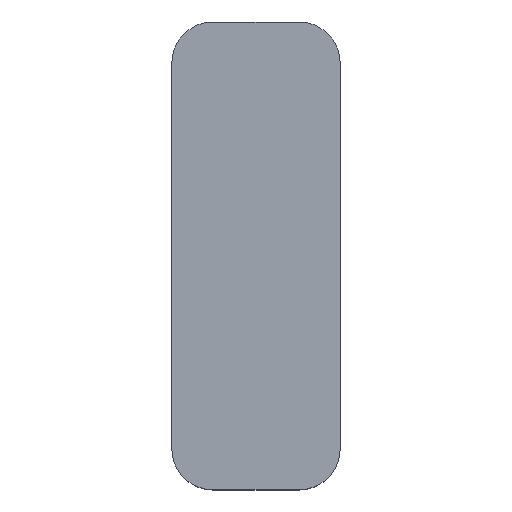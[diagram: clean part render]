
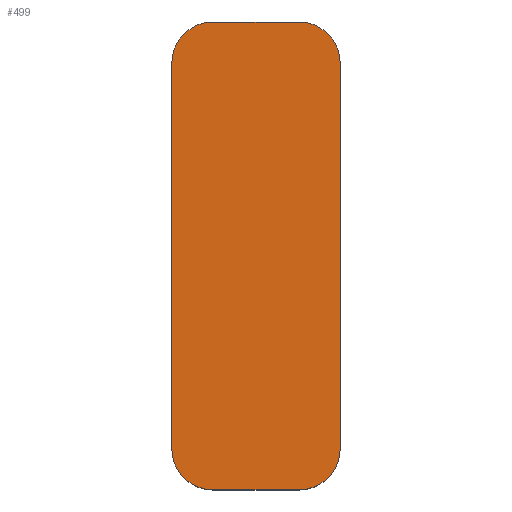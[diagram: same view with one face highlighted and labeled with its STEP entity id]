
A CAD part, top view. The second image highlights one B-rep face of the part: STEP entity #499.
In plain terms, the highlighted planar face has unit normal (0, 0, 1).
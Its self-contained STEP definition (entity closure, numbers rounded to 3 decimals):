
#32 = PLANE('',#33);
#33 = AXIS2_PLACEMENT_3D('',#34,#35,#36);
#34 = CARTESIAN_POINT('',(-23.5,-7.5,24.));
#35 = DIRECTION('',(0.,1.,0.));
#36 = DIRECTION('',(1.,0.,0.));
#57 = VERTEX_POINT('',#58);
#58 = CARTESIAN_POINT('',(-21.3,-7.5,28.2));
#72 = CYLINDRICAL_SURFACE('',#73,2.2);
#73 = AXIS2_PLACEMENT_3D('',#74,#75,#76);
#74 = CARTESIAN_POINT('',(-21.3,-5.3,24.));
#75 = DIRECTION('',(0.,0.,1.));
#76 = DIRECTION('',(0.,-1.,0.));
#84 = EDGE_CURVE('',#57,#85,#87,.T.);
#85 = VERTEX_POINT('',#86);
#86 = CARTESIAN_POINT('',(-16.7,-7.5,28.2));
#87 = SURFACE_CURVE('',#88,(#92,#99),.PCURVE_S1.);
#88 = LINE('',#89,#90);
#89 = CARTESIAN_POINT('',(-23.5,-7.5,28.2));
#90 = VECTOR('',#91,1.);
#91 = DIRECTION('',(1.,0.,0.));
#92 = PCURVE('',#32,#93);
#93 = DEFINITIONAL_REPRESENTATION('',(#94),#98);
#94 = LINE('',#95,#96);
#95 = CARTESIAN_POINT('',(0.,-4.2));
#96 = VECTOR('',#97,1.);
#97 = DIRECTION('',(1.,0.));
#98 = ( GEOMETRIC_REPRESENTATION_CONTEXT(2) 
PARAMETRIC_REPRESENTATION_CONTEXT() REPRESENTATION_CONTEXT('2D SPACE',''
  ) );
#99 = PCURVE('',#100,#105);
#100 = PLANE('',#101);
#101 = AXIS2_PLACEMENT_3D('',#102,#103,#104);
#102 = CARTESIAN_POINT('',(-19.,5.,28.2));
#103 = DIRECTION('',(0.,0.,1.));
#104 = DIRECTION('',(1.,0.,-0.));
#105 = DEFINITIONAL_REPRESENTATION('',(#106),#110);
#106 = LINE('',#107,#108);
#107 = CARTESIAN_POINT('',(-4.5,-12.5));
#108 = VECTOR('',#109,1.);
#109 = DIRECTION('',(1.,0.));
#110 = ( GEOMETRIC_REPRESENTATION_CONTEXT(2) 
PARAMETRIC_REPRESENTATION_CONTEXT() REPRESENTATION_CONTEXT('2D SPACE',''
  ) );
#126 = CYLINDRICAL_SURFACE('',#127,2.2);
#127 = AXIS2_PLACEMENT_3D('',#128,#129,#130);
#128 = CARTESIAN_POINT('',(-16.7,-5.3,24.));
#129 = DIRECTION('',(0.,0.,1.));
#130 = DIRECTION('',(0.,-1.,0.));
#182 = PLANE('',#183);
#183 = AXIS2_PLACEMENT_3D('',#184,#185,#186);
#184 = CARTESIAN_POINT('',(-14.5,-7.5,24.));
#185 = DIRECTION('',(-1.,0.,0.));
#186 = DIRECTION('',(0.,1.,0.));
#211 = CYLINDRICAL_SURFACE('',#212,2.2);
#212 = AXIS2_PLACEMENT_3D('',#213,#214,#215);
#213 = CARTESIAN_POINT('',(-16.7,15.3,24.));
#214 = DIRECTION('',(0.,0.,1.));
#215 = DIRECTION('',(1.,0.,-0.));
#239 = PLANE('',#240);
#240 = AXIS2_PLACEMENT_3D('',#241,#242,#243);
#241 = CARTESIAN_POINT('',(-14.5,17.5,24.));
#242 = DIRECTION('',(0.,-1.,0.));
#243 = DIRECTION('',(-1.,0.,0.));
#268 = CYLINDRICAL_SURFACE('',#269,2.2);
#269 = AXIS2_PLACEMENT_3D('',#270,#271,#272);
#270 = CARTESIAN_POINT('',(-21.3,15.3,24.));
#271 = DIRECTION('',(0.,0.,1.));
#272 = DIRECTION('',(-0.,1.,0.));
#296 = PLANE('',#297);
#297 = AXIS2_PLACEMENT_3D('',#298,#299,#300);
#298 = CARTESIAN_POINT('',(-23.5,17.5,24.));
#299 = DIRECTION('',(1.,0.,-0.));
#300 = DIRECTION('',(0.,-1.,0.));
#401 = VERTEX_POINT('',#402);
#402 = CARTESIAN_POINT('',(-23.5,-5.3,28.2));
#423 = EDGE_CURVE('',#57,#401,#424,.T.);
#424 = SURFACE_CURVE('',#425,(#430,#437),.PCURVE_S1.);
#425 = CIRCLE('',#426,2.2);
#426 = AXIS2_PLACEMENT_3D('',#427,#428,#429);
#427 = CARTESIAN_POINT('',(-21.3,-5.3,28.2));
#428 = DIRECTION('',(-0.,-0.,-1.));
#429 = DIRECTION('',(0.,-1.,0.));
#430 = PCURVE('',#72,#431);
#431 = DEFINITIONAL_REPRESENTATION('',(#432),#436);
#432 = LINE('',#433,#434);
#433 = CARTESIAN_POINT('',(-0.,4.2));
#434 = VECTOR('',#435,1.);
#435 = DIRECTION('',(-1.,0.));
#436 = ( GEOMETRIC_REPRESENTATION_CONTEXT(2) 
PARAMETRIC_REPRESENTATION_CONTEXT() REPRESENTATION_CONTEXT('2D SPACE',''
  ) );
#437 = PCURVE('',#100,#438);
#438 = DEFINITIONAL_REPRESENTATION('',(#439),#447);
#439 = ( BOUNDED_CURVE() B_SPLINE_CURVE(2,(#440,#441,#442,#443,#444,#445
,#446),.UNSPECIFIED.,.T.,.F.) B_SPLINE_CURVE_WITH_KNOTS((1,2,2,2,2,1),(
    -2.094,0.,2.094,4.189,6.283,
8.378),.UNSPECIFIED.) CURVE() GEOMETRIC_REPRESENTATION_ITEM() 
RATIONAL_B_SPLINE_CURVE((1.,0.5,1.,0.5,1.,0.5,1.)) REPRESENTATION_ITEM(
  '') );
#440 = CARTESIAN_POINT('',(-2.3,-12.5));
#441 = CARTESIAN_POINT('',(-6.111,-12.5));
#442 = CARTESIAN_POINT('',(-4.205,-9.2));
#443 = CARTESIAN_POINT('',(-2.3,-5.9));
#444 = CARTESIAN_POINT('',(-0.395,-9.2));
#445 = CARTESIAN_POINT('',(1.511,-12.5));
#446 = CARTESIAN_POINT('',(-2.3,-12.5));
#447 = ( GEOMETRIC_REPRESENTATION_CONTEXT(2) 
PARAMETRIC_REPRESENTATION_CONTEXT() REPRESENTATION_CONTEXT('2D SPACE',''
  ) );
#455 = VERTEX_POINT('',#456);
#456 = CARTESIAN_POINT('',(-14.5,-5.3,28.2));
#477 = EDGE_CURVE('',#85,#455,#478,.T.);
#478 = SURFACE_CURVE('',#479,(#484,#491),.PCURVE_S1.);
#479 = CIRCLE('',#480,2.2);
#480 = AXIS2_PLACEMENT_3D('',#481,#482,#483);
#481 = CARTESIAN_POINT('',(-16.7,-5.3,28.2));
#482 = DIRECTION('',(0.,0.,1.));
#483 = DIRECTION('',(0.,-1.,0.));
#484 = PCURVE('',#126,#485);
#485 = DEFINITIONAL_REPRESENTATION('',(#486),#490);
#486 = LINE('',#487,#488);
#487 = CARTESIAN_POINT('',(0.,4.2));
#488 = VECTOR('',#489,1.);
#489 = DIRECTION('',(1.,0.));
#490 = ( GEOMETRIC_REPRESENTATION_CONTEXT(2) 
PARAMETRIC_REPRESENTATION_CONTEXT() REPRESENTATION_CONTEXT('2D SPACE',''
  ) );
#491 = PCURVE('',#100,#492);
#492 = DEFINITIONAL_REPRESENTATION('',(#493),#497);
#493 = CIRCLE('',#494,2.2);
#494 = AXIS2_PLACEMENT_2D('',#495,#496);
#495 = CARTESIAN_POINT('',(2.3,-10.3));
#496 = DIRECTION('',(0.,-1.));
#497 = ( GEOMETRIC_REPRESENTATION_CONTEXT(2) 
PARAMETRIC_REPRESENTATION_CONTEXT() REPRESENTATION_CONTEXT('2D SPACE',''
  ) );
#499 = ADVANCED_FACE('',(#500),#100,.T.);
#500 = FACE_BOUND('',#501,.T.);
#501 = EDGE_LOOP('',(#502,#503,#504,#527,#551,#574,#598,#619));
#502 = ORIENTED_EDGE('',*,*,#84,.T.);
#503 = ORIENTED_EDGE('',*,*,#477,.T.);
#504 = ORIENTED_EDGE('',*,*,#505,.T.);
#505 = EDGE_CURVE('',#455,#506,#508,.T.);
#506 = VERTEX_POINT('',#507);
#507 = CARTESIAN_POINT('',(-14.5,15.3,28.2));
#508 = SURFACE_CURVE('',#509,(#513,#520),.PCURVE_S1.);
#509 = LINE('',#510,#511);
#510 = CARTESIAN_POINT('',(-14.5,-7.5,28.2));
#511 = VECTOR('',#512,1.);
#512 = DIRECTION('',(0.,1.,0.));
#513 = PCURVE('',#100,#514);
#514 = DEFINITIONAL_REPRESENTATION('',(#515),#519);
#515 = LINE('',#516,#517);
#516 = CARTESIAN_POINT('',(4.5,-12.5));
#517 = VECTOR('',#518,1.);
#518 = DIRECTION('',(0.,1.));
#519 = ( GEOMETRIC_REPRESENTATION_CONTEXT(2) 
PARAMETRIC_REPRESENTATION_CONTEXT() REPRESENTATION_CONTEXT('2D SPACE',''
  ) );
#520 = PCURVE('',#182,#521);
#521 = DEFINITIONAL_REPRESENTATION('',(#522),#526);
#522 = LINE('',#523,#524);
#523 = CARTESIAN_POINT('',(0.,-4.2));
#524 = VECTOR('',#525,1.);
#525 = DIRECTION('',(1.,0.));
#526 = ( GEOMETRIC_REPRESENTATION_CONTEXT(2) 
PARAMETRIC_REPRESENTATION_CONTEXT() REPRESENTATION_CONTEXT('2D SPACE',''
  ) );
#527 = ORIENTED_EDGE('',*,*,#528,.T.);
#528 = EDGE_CURVE('',#506,#529,#531,.T.);
#529 = VERTEX_POINT('',#530);
#530 = CARTESIAN_POINT('',(-16.7,17.5,28.2));
#531 = SURFACE_CURVE('',#532,(#537,#544),.PCURVE_S1.);
#532 = CIRCLE('',#533,2.2);
#533 = AXIS2_PLACEMENT_3D('',#534,#535,#536);
#534 = CARTESIAN_POINT('',(-16.7,15.3,28.2));
#535 = DIRECTION('',(0.,0.,1.));
#536 = DIRECTION('',(0.,-1.,0.));
#537 = PCURVE('',#100,#538);
#538 = DEFINITIONAL_REPRESENTATION('',(#539),#543);
#539 = CIRCLE('',#540,2.2);
#540 = AXIS2_PLACEMENT_2D('',#541,#542);
#541 = CARTESIAN_POINT('',(2.3,10.3));
#542 = DIRECTION('',(0.,-1.));
#543 = ( GEOMETRIC_REPRESENTATION_CONTEXT(2) 
PARAMETRIC_REPRESENTATION_CONTEXT() REPRESENTATION_CONTEXT('2D SPACE',''
  ) );
#544 = PCURVE('',#211,#545);
#545 = DEFINITIONAL_REPRESENTATION('',(#546),#550);
#546 = LINE('',#547,#548);
#547 = CARTESIAN_POINT('',(-1.571,4.2));
#548 = VECTOR('',#549,1.);
#549 = DIRECTION('',(1.,0.));
#550 = ( GEOMETRIC_REPRESENTATION_CONTEXT(2) 
PARAMETRIC_REPRESENTATION_CONTEXT() REPRESENTATION_CONTEXT('2D SPACE',''
  ) );
#551 = ORIENTED_EDGE('',*,*,#552,.T.);
#552 = EDGE_CURVE('',#529,#553,#555,.T.);
#553 = VERTEX_POINT('',#554);
#554 = CARTESIAN_POINT('',(-21.3,17.5,28.2));
#555 = SURFACE_CURVE('',#556,(#560,#567),.PCURVE_S1.);
#556 = LINE('',#557,#558);
#557 = CARTESIAN_POINT('',(-14.5,17.5,28.2));
#558 = VECTOR('',#559,1.);
#559 = DIRECTION('',(-1.,0.,0.));
#560 = PCURVE('',#100,#561);
#561 = DEFINITIONAL_REPRESENTATION('',(#562),#566);
#562 = LINE('',#563,#564);
#563 = CARTESIAN_POINT('',(4.5,12.5));
#564 = VECTOR('',#565,1.);
#565 = DIRECTION('',(-1.,0.));
#566 = ( GEOMETRIC_REPRESENTATION_CONTEXT(2) 
PARAMETRIC_REPRESENTATION_CONTEXT() REPRESENTATION_CONTEXT('2D SPACE',''
  ) );
#567 = PCURVE('',#239,#568);
#568 = DEFINITIONAL_REPRESENTATION('',(#569),#573);
#569 = LINE('',#570,#571);
#570 = CARTESIAN_POINT('',(0.,-4.2));
#571 = VECTOR('',#572,1.);
#572 = DIRECTION('',(1.,0.));
#573 = ( GEOMETRIC_REPRESENTATION_CONTEXT(2) 
PARAMETRIC_REPRESENTATION_CONTEXT() REPRESENTATION_CONTEXT('2D SPACE',''
  ) );
#574 = ORIENTED_EDGE('',*,*,#575,.T.);
#575 = EDGE_CURVE('',#553,#576,#578,.T.);
#576 = VERTEX_POINT('',#577);
#577 = CARTESIAN_POINT('',(-23.5,15.3,28.2));
#578 = SURFACE_CURVE('',#579,(#584,#591),.PCURVE_S1.);
#579 = CIRCLE('',#580,2.2);
#580 = AXIS2_PLACEMENT_3D('',#581,#582,#583);
#581 = CARTESIAN_POINT('',(-21.3,15.3,28.2));
#582 = DIRECTION('',(0.,0.,1.));
#583 = DIRECTION('',(0.,-1.,0.));
#584 = PCURVE('',#100,#585);
#585 = DEFINITIONAL_REPRESENTATION('',(#586),#590);
#586 = CIRCLE('',#587,2.2);
#587 = AXIS2_PLACEMENT_2D('',#588,#589);
#588 = CARTESIAN_POINT('',(-2.3,10.3));
#589 = DIRECTION('',(0.,-1.));
#590 = ( GEOMETRIC_REPRESENTATION_CONTEXT(2) 
PARAMETRIC_REPRESENTATION_CONTEXT() REPRESENTATION_CONTEXT('2D SPACE',''
  ) );
#591 = PCURVE('',#268,#592);
#592 = DEFINITIONAL_REPRESENTATION('',(#593),#597);
#593 = LINE('',#594,#595);
#594 = CARTESIAN_POINT('',(-3.142,4.2));
#595 = VECTOR('',#596,1.);
#596 = DIRECTION('',(1.,0.));
#597 = ( GEOMETRIC_REPRESENTATION_CONTEXT(2) 
PARAMETRIC_REPRESENTATION_CONTEXT() REPRESENTATION_CONTEXT('2D SPACE',''
  ) );
#598 = ORIENTED_EDGE('',*,*,#599,.T.);
#599 = EDGE_CURVE('',#576,#401,#600,.T.);
#600 = SURFACE_CURVE('',#601,(#605,#612),.PCURVE_S1.);
#601 = LINE('',#602,#603);
#602 = CARTESIAN_POINT('',(-23.5,17.5,28.2));
#603 = VECTOR('',#604,1.);
#604 = DIRECTION('',(0.,-1.,0.));
#605 = PCURVE('',#100,#606);
#606 = DEFINITIONAL_REPRESENTATION('',(#607),#611);
#607 = LINE('',#608,#609);
#608 = CARTESIAN_POINT('',(-4.5,12.5));
#609 = VECTOR('',#610,1.);
#610 = DIRECTION('',(0.,-1.));
#611 = ( GEOMETRIC_REPRESENTATION_CONTEXT(2) 
PARAMETRIC_REPRESENTATION_CONTEXT() REPRESENTATION_CONTEXT('2D SPACE',''
  ) );
#612 = PCURVE('',#296,#613);
#613 = DEFINITIONAL_REPRESENTATION('',(#614),#618);
#614 = LINE('',#615,#616);
#615 = CARTESIAN_POINT('',(0.,-4.2));
#616 = VECTOR('',#617,1.);
#617 = DIRECTION('',(1.,0.));
#618 = ( GEOMETRIC_REPRESENTATION_CONTEXT(2) 
PARAMETRIC_REPRESENTATION_CONTEXT() REPRESENTATION_CONTEXT('2D SPACE',''
  ) );
#619 = ORIENTED_EDGE('',*,*,#423,.F.);
